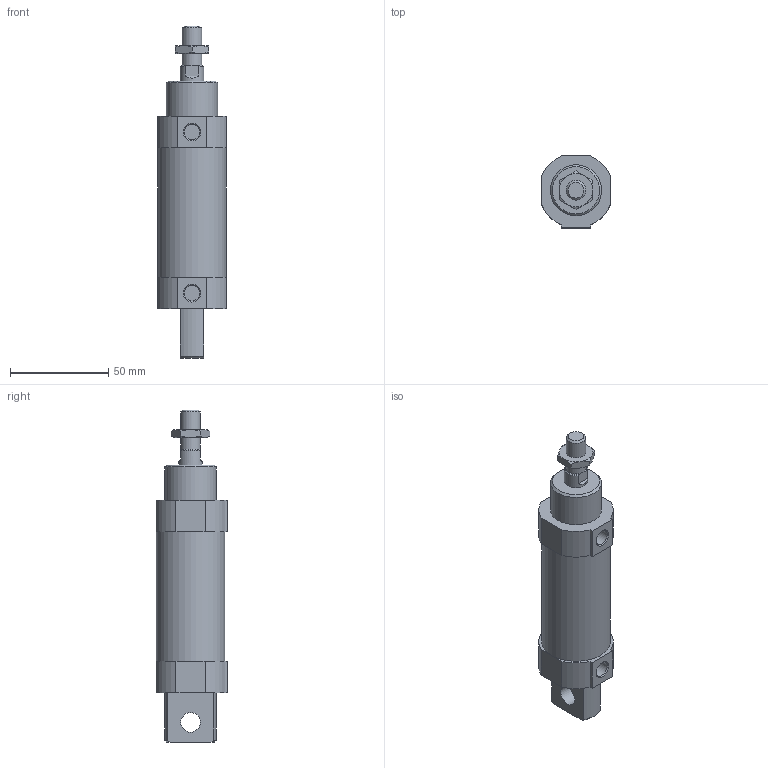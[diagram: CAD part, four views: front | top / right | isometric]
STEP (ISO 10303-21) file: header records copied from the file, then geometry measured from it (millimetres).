
FILE_DESCRIPTION((''),'2;1');
FILE_NAME('I:\3D電子目錄\氣缸\FDA\FDA\FDA\FDA30\FDA30x25.stp','2007-10-16T10:02:38',('66-2f-008'),(''),'Autodesk Inventor 11','Autodesk Inventor 11','');
FILE_SCHEMA(('AUTOMOTIVE_DESIGN { 1 0 10303 214 1 1 1 1 }'));
Length unit declared in the file: millimetre
Products named in the file (1): FDA30
Bounding box: 35 x 36.5 x 169 mm (x, y, z)
Volume: 116937.4 mm3; surface area: 18695.7 mm2
Topology: 1 solids, 1 shells, 79 faces, 184 edges, 114 vertices
Faces by surface type: plane 41, cone 20, cylinder 18
Full cylindrical faces by diameter (mm): 8 x2, 10 x3, 12 x1, 26 x1, 35 x1
Entity records: 2151 total; most frequent: CARTESIAN_POINT 426, DIRECTION 362, ORIENTED_EDGE 340, EDGE_CURVE 170, AXIS2_PLACEMENT_3D 144, VERTEX_POINT 112, EDGE_LOOP 100, FACE_OUTER_BOUND 79
